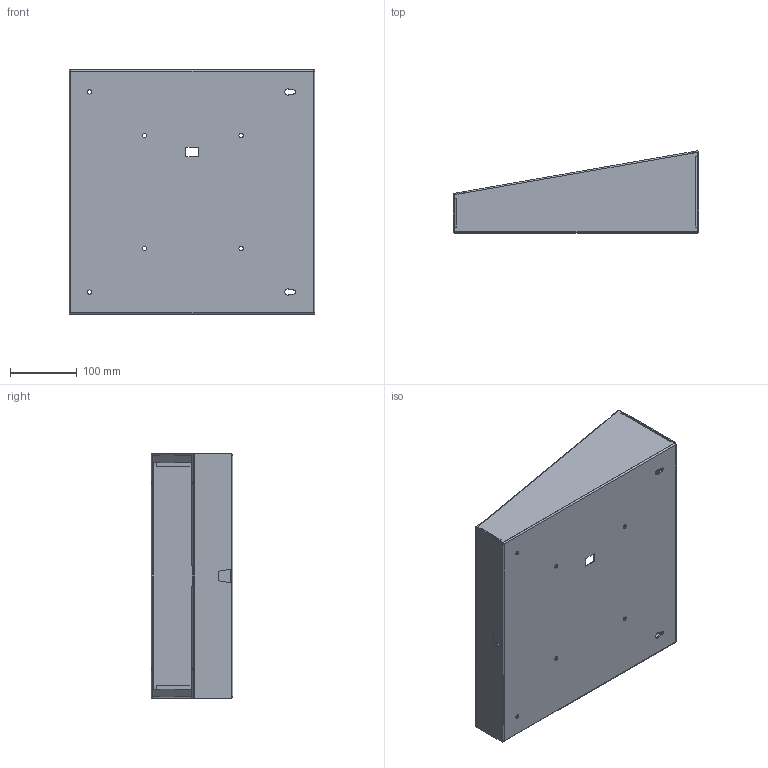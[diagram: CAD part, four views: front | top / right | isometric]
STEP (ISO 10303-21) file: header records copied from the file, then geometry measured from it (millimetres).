
FILE_DESCRIPTION (( 'STEP AP214' ), '1' );
FILE_NAME ('IPS-SM1.STEP', '2018-08-24T16:06:21', ( '' ), ( '' ), 'SwSTEP 2.0', 'SolidWorks 2015', '' );
FILE_SCHEMA (( 'AUTOMOTIVE_DESIGN' ));
Length unit declared in the file: inch
Products named in the file (1): IPS-SM1
Bounding box: 367.44 x 122.6 x 365.51 mm (x, y, z)
Volume: 497662.1 mm3; surface area: 573241.5 mm2
Topology: 1 solids, 1 shells, 202 faces, 500 edges, 304 vertices
Faces by surface type: plane 142, cylinder 60
Entity records: 5960 total; most frequent: DIRECTION 1034, CARTESIAN_POINT 1007, ORIENTED_EDGE 1000, EDGE_CURVE 500, VECTOR 372, LINE 372, AXIS2_PLACEMENT_3D 331, VERTEX_POINT 304
